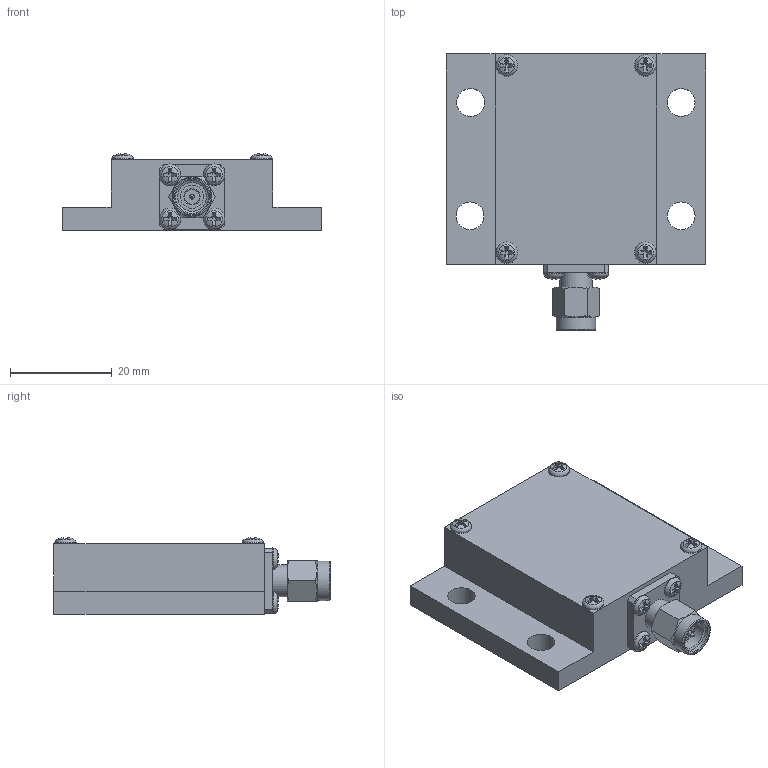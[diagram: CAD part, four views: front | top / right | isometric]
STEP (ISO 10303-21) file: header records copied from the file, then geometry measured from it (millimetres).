
FILE_DESCRIPTION(/* description */ ('Unknown'),/* implementation_level */ '2;1');
FILE_NAME(/* name */ '150-CT-MA Rev A STEP',/* time_stamp */ '2022-06-17T10:50:07-04:00',/* author */ ('Unknown'),/* organization */ ('Unknown'),/* preprocessor_version */ 'ST-DEVELOPER v18.102',/* originating_system */ 'Solid Edge',/* authorisation */ 'Unknown');
FILE_SCHEMA (('AUTOMOTIVE_DESIGN {1 0 10303 214 3 1 1}'));
Length unit declared in the file: millimetre
Products named in the file (1): 150-CT-MA
Bounding box: 50.8 x 54.15 x 15.1 mm (x, y, z)
Volume: 22134.6 mm3; surface area: 7168.8 mm2
Topology: 1 solids, 1 shells, 231 faces, 629 edges, 412 vertices
Faces by surface type: plane 148, cylinder 44, cone 20, torus 11, sphere 8
Full cylindrical faces by diameter (mm): 0.91 x1, 2.975 x1, 4.53 x1, 5.461 x4, 5.65 x1, 6.32 x1, 6.45 x1, 6.5 x1, 7.75 x1
Entity records: 8729 total; most frequent: CARTESIAN_POINT 1398, DIRECTION 1252, ORIENTED_EDGE 1122, EDGE_CURVE 561, AXIS2_PLACEMENT_3D 509, VERTEX_POINT 389, EDGE_LOOP 296, FACE_BOUND 296
